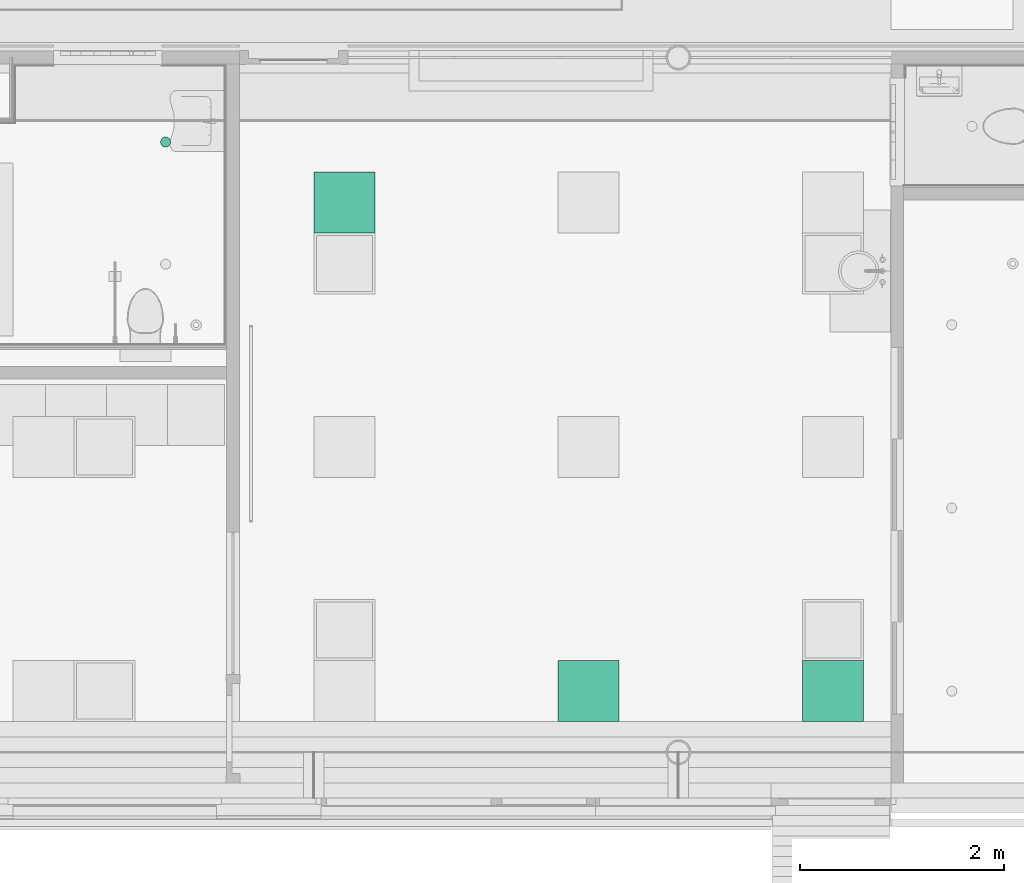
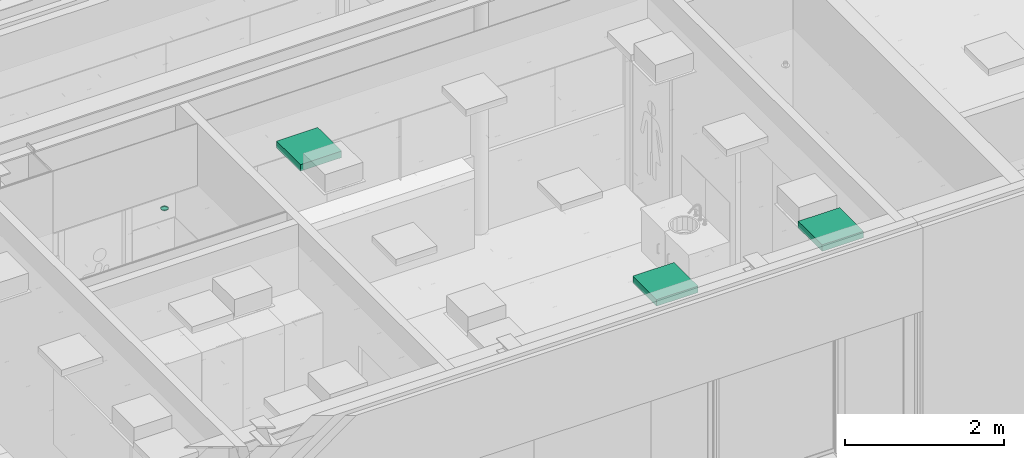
# One storey, part 204 of 347: 4 flow terminals.
"""IFC2X3 building model written with IfcOpenShell, lengths in millimetres."""

from ifc_helpers import new_model, entity, si_unit, converted_unit, derived_unit, money_unit, direction, frame, origin_with_axes, place, context, subcontext, project, spatial, open_shell, faceted_brep, surface_model, source, transform, mapped, type_object, type_shapes, element, save


model = new_model("IFC2X3")

# Units and contexts
model_context = context("Model", 3, precision=0.01, world=origin_with_axes(), true_north=direction((0.0, 1.0)))
plan_context = context("Plan", 3, precision=0.01, world=origin_with_axes(), true_north=direction((0.0, 1.0)))
body_context = subcontext(model_context, "Body", "Model", "MODEL_VIEW")
ifc_project = project(units=[si_unit("LENGTHUNIT", "METRE", prefix="MILLI"), si_unit("AREAUNIT", "SQUARE_METRE"), si_unit("VOLUMEUNIT", "CUBIC_METRE"), converted_unit("PLANEANGLEUNIT", "DEGREE", entity("IfcPlaneAngleMeasure", 0.0174532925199), si_unit("PLANEANGLEUNIT", "RADIAN"), dimensions=[0, 0, 0, 0, 0, 0, 0]), money_unit("EUR"), converted_unit("TIMEUNIT", "Year", entity("IfcTimeMeasure", 31556926.0), si_unit("TIMEUNIT", "SECOND"), dimensions=[0, 0, 1, 0, 0, 0, 0]), si_unit("MASSUNIT", "GRAM", prefix="KILO"), si_unit("THERMODYNAMICTEMPERATUREUNIT", "DEGREE_CELSIUS"), si_unit("LUMINOUSINTENSITYUNIT", "LUMEN"), si_unit("ENERGYUNIT", "JOULE", prefix="MEGA"), derived_unit("THERMALCONDUCTANCEUNIT", [(si_unit("POWERUNIT", "WATT"), 1), (si_unit("LENGTHUNIT", "METRE"), -1), (si_unit("THERMODYNAMICTEMPERATUREUNIT", "KELVIN"), -1)]), derived_unit("SPECIFICHEATCAPACITYUNIT", [(si_unit("ENERGYUNIT", "JOULE"), 1), (si_unit("MASSUNIT", "GRAM", prefix="KILO"), -1), (si_unit("THERMODYNAMICTEMPERATUREUNIT", "KELVIN"), -1)]), derived_unit("MASSDENSITYUNIT", [(si_unit("MASSUNIT", "GRAM", prefix="KILO"), 1), (si_unit("VOLUMEUNIT", "CUBIC_METRE"), -1)])], contexts=[model_context, plan_context])

# Site, building, storey
site_placement = place(None, origin_with_axes())
site = spatial("IfcSite", under=ifc_project, at=site_placement, Name="Site", CompositionType="ELEMENT")
building_placement = place(site_placement, origin_with_axes())
building = spatial("IfcBuilding", under=site, at=building_placement, Name="Naam gebouw", CompositionType="ELEMENT")
storey_placement = place(building_placement, origin_with_axes())
storey = spatial("IfcBuildingStorey", under=building, at=storey_placement, Name="begane grond", CompositionType="ELEMENT", Elevation=0.0)

# Flow terminals
lamp_type_1 = type_object("IfcLampType", Name="Spot plafond 01 25", PredefinedType="NOTDEFINED")
shared_shape_1 = source(origin_with_axes(), body_context, "Body", "SurfaceModel", [
    faceted_brep([(50.0, 0.0, -10.0), (46.1939766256, 19.1341716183, -10.0), (46.1939766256, 19.1341716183, 0.0), (50.0, 0.0, 0.0), (46.1939766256, -19.1341716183, -10.0), (35.3553390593, -35.3553390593, -10.0), (19.1341716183, -46.1939766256, -10.0), (0.0, -50.0, -10.0), (-19.1341716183, -46.1939766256, -10.0), (-35.3553390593, -35.3553390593, -10.0), (-46.1939766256, -19.1341716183, -10.0), (-50.0, 0.0, -10.0), (-46.1939766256, 19.1341716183, -10.0), (-35.3553390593, 35.3553390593, -10.0), (-19.1341716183, 46.1939766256, -10.0), (0.0, 50.0, -10.0), (19.1341716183, 46.1939766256, -10.0), (35.3553390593, 35.3553390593, -10.0), (40.0, 0.0, -10.0), (36.9551813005, 15.3073372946, -10.0), (28.2842712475, 28.2842712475, -10.0), (15.3073372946, 36.9551813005, -10.0), (0.0, 40.0, -10.0), (-15.3073372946, 36.9551813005, -10.0), (-28.2842712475, 28.2842712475, -10.0), (-36.9551813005, 15.3073372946, -10.0), (-40.0, 0.0, -10.0), (-36.9551813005, -15.3073372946, -10.0), (-28.2842712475, -28.2842712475, -10.0), (-15.3073372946, -36.9551813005, -10.0), (0.0, -40.0, -10.0), (15.3073372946, -36.9551813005, -10.0), (28.2842712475, -28.2842712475, -10.0), (36.9551813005, -15.3073372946, -10.0), (35.3553390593, 35.3553390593, 0.0), (19.1341716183, 46.1939766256, 0.0), (0.0, 50.0, 0.0), (-19.1341716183, 46.1939766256, 0.0), (-35.3553390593, 35.3553390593, 0.0), (-46.1939766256, 19.1341716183, 0.0), (-50.0, 0.0, 0.0), (-46.1939766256, -19.1341716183, 0.0), (-35.3553390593, -35.3553390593, 0.0), (-19.1341716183, -46.1939766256, 0.0), (0.0, -50.0, 0.0), (19.1341716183, -46.1939766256, 0.0), (35.3553390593, -35.3553390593, 0.0), (46.1939766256, -19.1341716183, 0.0), (40.0, 0.0, 0.0), (36.9551813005, -15.3073372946, 0.0), (28.2842712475, -28.2842712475, 0.0), (15.3073372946, -36.9551813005, 0.0), (0.0, -40.0, 0.0), (-15.3073372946, -36.9551813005, 0.0), (-28.2842712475, -28.2842712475, 0.0), (-36.9551813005, -15.3073372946, 0.0), (-40.0, 0.0, 0.0), (-36.9551813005, 15.3073372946, 0.0), (-28.2842712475, 28.2842712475, 0.0), (-15.3073372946, 36.9551813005, 0.0), (0.0, 40.0, 0.0), (15.3073372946, 36.9551813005, 0.0), (28.2842712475, 28.2842712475, 0.0), (36.9551813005, 15.3073372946, 0.0)], [[[0, 1, 2, 3]], [[0, 4, 5, 6, 7, 8, 9, 10, 11, 12, 13, 14, 15, 16, 17, 1], [18, 19, 20, 21, 22, 23, 24, 25, 26, 27, 28, 29, 30, 31, 32, 33]], [[1, 17, 34, 2]], [[3, 2, 34, 35, 36, 37, 38, 39, 40, 41, 42, 43, 44, 45, 46, 47], [48, 49, 50, 51, 52, 53, 54, 55, 56, 57, 58, 59, 60, 61, 62, 63]], [[4, 0, 3, 47]], [[5, 4, 47, 46]], [[6, 5, 46, 45]], [[7, 6, 45, 44]], [[8, 7, 44, 43]], [[9, 8, 43, 42]], [[10, 9, 42, 41]], [[11, 10, 41, 40]], [[12, 11, 40, 39]], [[13, 12, 39, 38]], [[14, 13, 38, 37]], [[15, 14, 37, 36]], [[16, 15, 36, 35]], [[17, 16, 35, 34]], [[19, 18, 48, 63]], [[20, 19, 63, 62]], [[21, 20, 62, 61]], [[22, 21, 61, 60]], [[23, 22, 60, 59]], [[24, 23, 59, 58]], [[25, 24, 58, 57]], [[26, 25, 57, 56]], [[27, 26, 56, 55]], [[28, 27, 55, 54]], [[29, 28, 54, 53]], [[30, 29, 53, 52]], [[31, 30, 52, 51]], [[32, 31, 51, 50]], [[33, 32, 50, 49]], [[18, 33, 49, 48]]]),
    surface_model("IfcShellBasedSurfaceModel", [(40.0, 0.0, -8.9), (36.9551813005, -15.3073372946, -8.9), (28.2842712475, -28.2842712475, -8.9), (15.3073372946, -36.9551813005, -8.9), (0.0, -40.0, -8.9), (-15.3073372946, -36.9551813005, -8.9), (-28.2842712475, -28.2842712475, -8.9), (-36.9551813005, -15.3073372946, -8.9), (-40.0, 0.0, -8.9), (-36.9551813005, 15.3073372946, -8.9), (-28.2842712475, 28.2842712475, -8.9), (-15.3073372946, 36.9551813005, -8.9), (0.0, 40.0, -8.9), (15.3073372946, 36.9551813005, -8.9), (28.2842712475, 28.2842712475, -8.9), (36.9551813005, 15.3073372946, -8.9)], [open_shell([[[0, 1, 2, 3, 4, 5, 6, 7, 8, 9, 10, 11, 12, 13, 14, 15]]])]),
])
type_shapes(lamp_type_1, [shared_shape_1])
flow_terminal_placement = place(storey_placement, frame((26700.0, 11294.999986, 2600.0), z_axis=(0.0, 0.0, 1.0), x_axis=(1.0, 0.0, 0.0)))
element("IfcFlowTerminal", 1, at=flow_terminal_placement, inside=storey, type_object=lamp_type_1, Name="63_Lamp-x", ObjectType="Lamp", context=body_context, shape_type="MappedRepresentation", body=[
    mapped(shared_shape_1, transform((0.0, 0.0, 0.0))),
])
lamp_type_2 = type_object("IfcLampType", Name="TL plafond 25", PredefinedType="NOTDEFINED")
shared_shape_2 = source(origin_with_axes(), body_context, "Body", "SurfaceModel", [
    faceted_brep([(0.0, 0.0, -100.0), (600.0, 0.0, -100.0), (600.0, 0.0, 0.0), (0.0, 0.0, 0.0), (0.0, 600.0, -100.0), (600.0, 600.0, -100.0), (40.0, 40.0, -100.0), (560.0, 40.0, -100.0), (560.0, 560.0, -100.0), (40.0, 560.0, -100.0), (600.0, 600.0, 0.0), (0.0, 600.0, 0.0), (40.0, 40.0, 0.0), (40.0, 560.0, 0.0), (560.0, 560.0, 0.0), (560.0, 40.0, 0.0)], [[[0, 1, 2, 3]], [[0, 4, 5, 1], [6, 7, 8, 9]], [[1, 5, 10, 2]], [[3, 2, 10, 11], [12, 13, 14, 15]], [[4, 0, 3, 11]], [[5, 4, 11, 10]], [[7, 6, 12, 15]], [[8, 7, 15, 14]], [[9, 8, 14, 13]], [[6, 9, 13, 12]]]),
    faceted_brep([(40.0, 40.0, -16.3333333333), (560.0, 40.0, -16.3333333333), (560.0, 40.0, 0.0), (40.0, 40.0, 0.0), (40.0, 560.0, -16.3333333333), (560.0, 560.0, -16.3333333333), (560.0, 560.0, 0.0), (40.0, 560.0, 0.0)], [[[0, 1, 2, 3]], [[0, 4, 5, 1]], [[1, 5, 6, 2]], [[3, 2, 6, 7]], [[4, 0, 3, 7]], [[5, 4, 7, 6]]]),
    surface_model("IfcShellBasedSurfaceModel", [(559.0, 41.0, -100.0), (40.0, 41.0, -100.0), (40.0, 559.0, -100.0), (559.0, 559.0, -100.0)], [open_shell([[[0, 1, 2, 3]]])]),
    faceted_brep([(40.0, 40.0, -100.0), (560.0, 40.0, -100.0), (560.0, 40.0, -60.0), (40.0, 40.0, -60.0), (40.0, 560.0, -100.0), (560.0, 560.0, -100.0), (41.0, 41.0, -100.0), (559.0, 41.0, -100.0), (559.0, 559.0, -100.0), (41.0, 559.0, -100.0), (560.0, 560.0, -60.0), (40.0, 560.0, -60.0), (41.0, 41.0, -60.0), (41.0, 559.0, -60.0), (559.0, 559.0, -60.0), (559.0, 41.0, -60.0)], [[[0, 1, 2, 3]], [[0, 4, 5, 1], [6, 7, 8, 9]], [[1, 5, 10, 2]], [[3, 2, 10, 11], [12, 13, 14, 15]], [[4, 0, 3, 11]], [[5, 4, 11, 10]], [[7, 6, 12, 15]], [[8, 7, 15, 14]], [[9, 8, 14, 13]], [[6, 9, 13, 12]]]),
    faceted_brep([(40.0, 144.0, -48.3333333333), (40.0, 149.740251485, -47.191526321), (560.0, 149.740251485, -47.191526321), (560.0, 144.0, -48.3333333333), (40.0, 138.259748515, -47.191526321), (40.0, 133.393398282, -43.9399350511), (40.0, 130.141807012, -39.0735848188), (40.0, 129.0, -33.3333333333), (40.0, 130.141807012, -27.5930818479), (40.0, 133.393398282, -22.7267316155), (40.0, 138.259748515, -19.4751403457), (40.0, 144.0, -18.3333333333), (40.0, 149.740251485, -19.4751403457), (40.0, 154.606601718, -22.7267316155), (40.0, 157.858192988, -27.5930818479), (40.0, 159.0, -33.3333333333), (40.0, 157.858192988, -39.0735848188), (40.0, 154.606601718, -43.9399350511), (40.0, 144.0, -46.3333333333), (40.0, 148.974884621, -45.343767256), (40.0, 153.192388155, -42.5257214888), (40.0, 156.010433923, -38.3082179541), (40.0, 157.0, -33.3333333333), (40.0, 156.010433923, -28.3584487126), (40.0, 153.192388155, -24.1409451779), (40.0, 148.974884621, -21.3228994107), (40.0, 144.0, -20.3333333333), (40.0, 139.025115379, -21.3228994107), (40.0, 134.807611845, -24.1409451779), (40.0, 131.989566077, -28.3584487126), (40.0, 131.0, -33.3333333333), (40.0, 131.989566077, -38.3082179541), (40.0, 134.807611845, -42.5257214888), (40.0, 139.025115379, -45.343767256), (560.0, 154.606601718, -43.9399350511), (560.0, 157.858192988, -39.0735848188), (560.0, 159.0, -33.3333333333), (560.0, 157.858192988, -27.5930818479), (560.0, 154.606601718, -22.7267316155), (560.0, 149.740251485, -19.4751403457), (560.0, 144.0, -18.3333333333), (560.0, 138.259748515, -19.4751403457), (560.0, 133.393398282, -22.7267316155), (560.0, 130.141807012, -27.5930818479), (560.0, 129.0, -33.3333333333), (560.0, 130.141807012, -39.0735848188), (560.0, 133.393398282, -43.9399350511), (560.0, 138.259748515, -47.191526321), (560.0, 144.0, -46.3333333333), (560.0, 139.025115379, -45.343767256), (560.0, 134.807611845, -42.5257214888), (560.0, 131.989566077, -38.3082179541), (560.0, 131.0, -33.3333333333), (560.0, 131.989566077, -28.3584487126), (560.0, 134.807611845, -24.1409451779), (560.0, 139.025115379, -21.3228994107), (560.0, 144.0, -20.3333333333), (560.0, 148.974884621, -21.3228994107), (560.0, 153.192388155, -24.1409451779), (560.0, 156.010433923, -28.3584487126), (560.0, 157.0, -33.3333333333), (560.0, 156.010433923, -38.3082179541), (560.0, 153.192388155, -42.5257214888), (560.0, 148.974884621, -45.343767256)], [[[0, 1, 2, 3]], [[0, 4, 5, 6, 7, 8, 9, 10, 11, 12, 13, 14, 15, 16, 17, 1], [18, 19, 20, 21, 22, 23, 24, 25, 26, 27, 28, 29, 30, 31, 32, 33]], [[1, 17, 34, 2]], [[3, 2, 34, 35, 36, 37, 38, 39, 40, 41, 42, 43, 44, 45, 46, 47], [48, 49, 50, 51, 52, 53, 54, 55, 56, 57, 58, 59, 60, 61, 62, 63]], [[4, 0, 3, 47]], [[5, 4, 47, 46]], [[6, 5, 46, 45]], [[7, 6, 45, 44]], [[8, 7, 44, 43]], [[9, 8, 43, 42]], [[10, 9, 42, 41]], [[11, 10, 41, 40]], [[12, 11, 40, 39]], [[13, 12, 39, 38]], [[14, 13, 38, 37]], [[15, 14, 37, 36]], [[16, 15, 36, 35]], [[17, 16, 35, 34]], [[19, 18, 48, 63]], [[20, 19, 63, 62]], [[21, 20, 62, 61]], [[22, 21, 61, 60]], [[23, 22, 60, 59]], [[24, 23, 59, 58]], [[25, 24, 58, 57]], [[26, 25, 57, 56]], [[27, 26, 56, 55]], [[28, 27, 55, 54]], [[29, 28, 54, 53]], [[30, 29, 53, 52]], [[31, 30, 52, 51]], [[32, 31, 51, 50]], [[33, 32, 50, 49]], [[18, 33, 49, 48]]]),
    faceted_brep([(40.0, 248.0, -48.3333333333), (40.0, 253.740251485, -47.191526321), (560.0, 253.740251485, -47.191526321), (560.0, 248.0, -48.3333333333), (40.0, 242.259748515, -47.191526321), (40.0, 237.393398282, -43.9399350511), (40.0, 234.141807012, -39.0735848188), (40.0, 233.0, -33.3333333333), (40.0, 234.141807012, -27.5930818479), (40.0, 237.393398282, -22.7267316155), (40.0, 242.259748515, -19.4751403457), (40.0, 248.0, -18.3333333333), (40.0, 253.740251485, -19.4751403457), (40.0, 258.606601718, -22.7267316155), (40.0, 261.858192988, -27.5930818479), (40.0, 263.0, -33.3333333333), (40.0, 261.858192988, -39.0735848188), (40.0, 258.606601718, -43.9399350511), (40.0, 248.0, -46.3333333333), (40.0, 252.974884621, -45.343767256), (40.0, 257.192388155, -42.5257214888), (40.0, 260.010433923, -38.3082179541), (40.0, 261.0, -33.3333333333), (40.0, 260.010433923, -28.3584487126), (40.0, 257.192388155, -24.1409451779), (40.0, 252.974884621, -21.3228994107), (40.0, 248.0, -20.3333333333), (40.0, 243.025115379, -21.3228994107), (40.0, 238.807611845, -24.1409451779), (40.0, 235.989566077, -28.3584487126), (40.0, 235.0, -33.3333333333), (40.0, 235.989566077, -38.3082179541), (40.0, 238.807611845, -42.5257214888), (40.0, 243.025115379, -45.343767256), (560.0, 258.606601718, -43.9399350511), (560.0, 261.858192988, -39.0735848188), (560.0, 263.0, -33.3333333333), (560.0, 261.858192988, -27.5930818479), (560.0, 258.606601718, -22.7267316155), (560.0, 253.740251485, -19.4751403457), (560.0, 248.0, -18.3333333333), (560.0, 242.259748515, -19.4751403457), (560.0, 237.393398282, -22.7267316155), (560.0, 234.141807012, -27.5930818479), (560.0, 233.0, -33.3333333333), (560.0, 234.141807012, -39.0735848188), (560.0, 237.393398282, -43.9399350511), (560.0, 242.259748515, -47.191526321), (560.0, 248.0, -46.3333333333), (560.0, 243.025115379, -45.343767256), (560.0, 238.807611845, -42.5257214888), (560.0, 235.989566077, -38.3082179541), (560.0, 235.0, -33.3333333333), (560.0, 235.989566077, -28.3584487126), (560.0, 238.807611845, -24.1409451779), (560.0, 243.025115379, -21.3228994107), (560.0, 248.0, -20.3333333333), (560.0, 252.974884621, -21.3228994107), (560.0, 257.192388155, -24.1409451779), (560.0, 260.010433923, -28.3584487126), (560.0, 261.0, -33.3333333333), (560.0, 260.010433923, -38.3082179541), (560.0, 257.192388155, -42.5257214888), (560.0, 252.974884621, -45.343767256)], [[[0, 1, 2, 3]], [[0, 4, 5, 6, 7, 8, 9, 10, 11, 12, 13, 14, 15, 16, 17, 1], [18, 19, 20, 21, 22, 23, 24, 25, 26, 27, 28, 29, 30, 31, 32, 33]], [[1, 17, 34, 2]], [[3, 2, 34, 35, 36, 37, 38, 39, 40, 41, 42, 43, 44, 45, 46, 47], [48, 49, 50, 51, 52, 53, 54, 55, 56, 57, 58, 59, 60, 61, 62, 63]], [[4, 0, 3, 47]], [[5, 4, 47, 46]], [[6, 5, 46, 45]], [[7, 6, 45, 44]], [[8, 7, 44, 43]], [[9, 8, 43, 42]], [[10, 9, 42, 41]], [[11, 10, 41, 40]], [[12, 11, 40, 39]], [[13, 12, 39, 38]], [[14, 13, 38, 37]], [[15, 14, 37, 36]], [[16, 15, 36, 35]], [[17, 16, 35, 34]], [[19, 18, 48, 63]], [[20, 19, 63, 62]], [[21, 20, 62, 61]], [[22, 21, 61, 60]], [[23, 22, 60, 59]], [[24, 23, 59, 58]], [[25, 24, 58, 57]], [[26, 25, 57, 56]], [[27, 26, 56, 55]], [[28, 27, 55, 54]], [[29, 28, 54, 53]], [[30, 29, 53, 52]], [[31, 30, 52, 51]], [[32, 31, 51, 50]], [[33, 32, 50, 49]], [[18, 33, 49, 48]]]),
    faceted_brep([(40.0, 352.0, -48.3333333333), (40.0, 357.740251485, -47.191526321), (560.0, 357.740251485, -47.191526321), (560.0, 352.0, -48.3333333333), (40.0, 346.259748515, -47.191526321), (40.0, 341.393398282, -43.9399350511), (40.0, 338.141807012, -39.0735848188), (40.0, 337.0, -33.3333333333), (40.0, 338.141807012, -27.5930818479), (40.0, 341.393398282, -22.7267316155), (40.0, 346.259748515, -19.4751403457), (40.0, 352.0, -18.3333333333), (40.0, 357.740251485, -19.4751403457), (40.0, 362.606601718, -22.7267316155), (40.0, 365.858192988, -27.5930818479), (40.0, 367.0, -33.3333333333), (40.0, 365.858192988, -39.0735848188), (40.0, 362.606601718, -43.9399350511), (40.0, 352.0, -46.3333333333), (40.0, 356.974884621, -45.343767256), (40.0, 361.192388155, -42.5257214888), (40.0, 364.010433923, -38.3082179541), (40.0, 365.0, -33.3333333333), (40.0, 364.010433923, -28.3584487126), (40.0, 361.192388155, -24.1409451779), (40.0, 356.974884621, -21.3228994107), (40.0, 352.0, -20.3333333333), (40.0, 347.025115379, -21.3228994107), (40.0, 342.807611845, -24.1409451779), (40.0, 339.989566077, -28.3584487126), (40.0, 339.0, -33.3333333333), (40.0, 339.989566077, -38.3082179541), (40.0, 342.807611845, -42.5257214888), (40.0, 347.025115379, -45.343767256), (560.0, 362.606601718, -43.9399350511), (560.0, 365.858192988, -39.0735848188), (560.0, 367.0, -33.3333333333), (560.0, 365.858192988, -27.5930818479), (560.0, 362.606601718, -22.7267316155), (560.0, 357.740251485, -19.4751403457), (560.0, 352.0, -18.3333333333), (560.0, 346.259748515, -19.4751403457), (560.0, 341.393398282, -22.7267316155), (560.0, 338.141807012, -27.5930818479), (560.0, 337.0, -33.3333333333), (560.0, 338.141807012, -39.0735848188), (560.0, 341.393398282, -43.9399350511), (560.0, 346.259748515, -47.191526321), (560.0, 352.0, -46.3333333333), (560.0, 347.025115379, -45.343767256), (560.0, 342.807611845, -42.5257214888), (560.0, 339.989566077, -38.3082179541), (560.0, 339.0, -33.3333333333), (560.0, 339.989566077, -28.3584487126), (560.0, 342.807611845, -24.1409451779), (560.0, 347.025115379, -21.3228994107), (560.0, 352.0, -20.3333333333), (560.0, 356.974884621, -21.3228994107), (560.0, 361.192388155, -24.1409451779), (560.0, 364.010433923, -28.3584487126), (560.0, 365.0, -33.3333333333), (560.0, 364.010433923, -38.3082179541), (560.0, 361.192388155, -42.5257214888), (560.0, 356.974884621, -45.343767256)], [[[0, 1, 2, 3]], [[0, 4, 5, 6, 7, 8, 9, 10, 11, 12, 13, 14, 15, 16, 17, 1], [18, 19, 20, 21, 22, 23, 24, 25, 26, 27, 28, 29, 30, 31, 32, 33]], [[1, 17, 34, 2]], [[3, 2, 34, 35, 36, 37, 38, 39, 40, 41, 42, 43, 44, 45, 46, 47], [48, 49, 50, 51, 52, 53, 54, 55, 56, 57, 58, 59, 60, 61, 62, 63]], [[4, 0, 3, 47]], [[5, 4, 47, 46]], [[6, 5, 46, 45]], [[7, 6, 45, 44]], [[8, 7, 44, 43]], [[9, 8, 43, 42]], [[10, 9, 42, 41]], [[11, 10, 41, 40]], [[12, 11, 40, 39]], [[13, 12, 39, 38]], [[14, 13, 38, 37]], [[15, 14, 37, 36]], [[16, 15, 36, 35]], [[17, 16, 35, 34]], [[19, 18, 48, 63]], [[20, 19, 63, 62]], [[21, 20, 62, 61]], [[22, 21, 61, 60]], [[23, 22, 60, 59]], [[24, 23, 59, 58]], [[25, 24, 58, 57]], [[26, 25, 57, 56]], [[27, 26, 56, 55]], [[28, 27, 55, 54]], [[29, 28, 54, 53]], [[30, 29, 53, 52]], [[31, 30, 52, 51]], [[32, 31, 51, 50]], [[33, 32, 50, 49]], [[18, 33, 49, 48]]]),
    faceted_brep([(40.0, 456.0, -48.3333333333), (40.0, 461.740251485, -47.191526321), (560.0, 461.740251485, -47.191526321), (560.0, 456.0, -48.3333333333), (40.0, 450.259748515, -47.191526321), (40.0, 445.393398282, -43.9399350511), (40.0, 442.141807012, -39.0735848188), (40.0, 441.0, -33.3333333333), (40.0, 442.141807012, -27.5930818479), (40.0, 445.393398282, -22.7267316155), (40.0, 450.259748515, -19.4751403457), (40.0, 456.0, -18.3333333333), (40.0, 461.740251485, -19.4751403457), (40.0, 466.606601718, -22.7267316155), (40.0, 469.858192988, -27.5930818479), (40.0, 471.0, -33.3333333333), (40.0, 469.858192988, -39.0735848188), (40.0, 466.606601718, -43.9399350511), (40.0, 456.0, -46.3333333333), (40.0, 460.974884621, -45.343767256), (40.0, 465.192388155, -42.5257214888), (40.0, 468.010433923, -38.3082179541), (40.0, 469.0, -33.3333333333), (40.0, 468.010433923, -28.3584487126), (40.0, 465.192388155, -24.1409451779), (40.0, 460.974884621, -21.3228994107), (40.0, 456.0, -20.3333333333), (40.0, 451.025115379, -21.3228994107), (40.0, 446.807611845, -24.1409451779), (40.0, 443.989566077, -28.3584487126), (40.0, 443.0, -33.3333333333), (40.0, 443.989566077, -38.3082179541), (40.0, 446.807611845, -42.5257214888), (40.0, 451.025115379, -45.343767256), (560.0, 466.606601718, -43.9399350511), (560.0, 469.858192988, -39.0735848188), (560.0, 471.0, -33.3333333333), (560.0, 469.858192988, -27.5930818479), (560.0, 466.606601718, -22.7267316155), (560.0, 461.740251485, -19.4751403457), (560.0, 456.0, -18.3333333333), (560.0, 450.259748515, -19.4751403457), (560.0, 445.393398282, -22.7267316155), (560.0, 442.141807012, -27.5930818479), (560.0, 441.0, -33.3333333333), (560.0, 442.141807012, -39.0735848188), (560.0, 445.393398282, -43.9399350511), (560.0, 450.259748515, -47.191526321), (560.0, 456.0, -46.3333333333), (560.0, 451.025115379, -45.343767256), (560.0, 446.807611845, -42.5257214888), (560.0, 443.989566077, -38.3082179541), (560.0, 443.0, -33.3333333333), (560.0, 443.989566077, -28.3584487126), (560.0, 446.807611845, -24.1409451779), (560.0, 451.025115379, -21.3228994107), (560.0, 456.0, -20.3333333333), (560.0, 460.974884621, -21.3228994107), (560.0, 465.192388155, -24.1409451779), (560.0, 468.010433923, -28.3584487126), (560.0, 469.0, -33.3333333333), (560.0, 468.010433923, -38.3082179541), (560.0, 465.192388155, -42.5257214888), (560.0, 460.974884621, -45.343767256)], [[[0, 1, 2, 3]], [[0, 4, 5, 6, 7, 8, 9, 10, 11, 12, 13, 14, 15, 16, 17, 1], [18, 19, 20, 21, 22, 23, 24, 25, 26, 27, 28, 29, 30, 31, 32, 33]], [[1, 17, 34, 2]], [[3, 2, 34, 35, 36, 37, 38, 39, 40, 41, 42, 43, 44, 45, 46, 47], [48, 49, 50, 51, 52, 53, 54, 55, 56, 57, 58, 59, 60, 61, 62, 63]], [[4, 0, 3, 47]], [[5, 4, 47, 46]], [[6, 5, 46, 45]], [[7, 6, 45, 44]], [[8, 7, 44, 43]], [[9, 8, 43, 42]], [[10, 9, 42, 41]], [[11, 10, 41, 40]], [[12, 11, 40, 39]], [[13, 12, 39, 38]], [[14, 13, 38, 37]], [[15, 14, 37, 36]], [[16, 15, 36, 35]], [[17, 16, 35, 34]], [[19, 18, 48, 63]], [[20, 19, 63, 62]], [[21, 20, 62, 61]], [[22, 21, 61, 60]], [[23, 22, 60, 59]], [[24, 23, 59, 58]], [[25, 24, 58, 57]], [[26, 25, 57, 56]], [[27, 26, 56, 55]], [[28, 27, 55, 54]], [[29, 28, 54, 53]], [[30, 29, 53, 52]], [[31, 30, 52, 51]], [[32, 31, 51, 50]], [[33, 32, 50, 49]], [[18, 33, 49, 48]]]),
])
type_shapes(lamp_type_2, [shared_shape_2])
for number, where, z_axis, x_axis, name in (
    (2, (28155.0, 10399.999972, 3295.0), (0.0, 0.0, 1.0), (1.0, 0.0, 0.0), "63_Lamp-x"),
    (3, (30555.0, 5599.99997201, 3295.0), (0.0, 0.0, 1.0), (1.0, 0.0, 0.0), "63_Lamp-x"),
    (4, (32955.0, 5599.99997201, 3295.0), (0.0, 0.0, 1.0), (1.0, 0.0, 0.0), "63_Lamp-x"),
):
    element("IfcFlowTerminal", number, at=place(storey_placement, frame(where, z_axis=z_axis, x_axis=x_axis)), inside=storey, type_object=lamp_type_2, Name=name, ObjectType="Lamp", context=body_context, shape_type="MappedRepresentation", body=[
        mapped(shared_shape_2, transform((0.0, 0.0, 0.0))),
    ])

save(model, "model.ifc")
